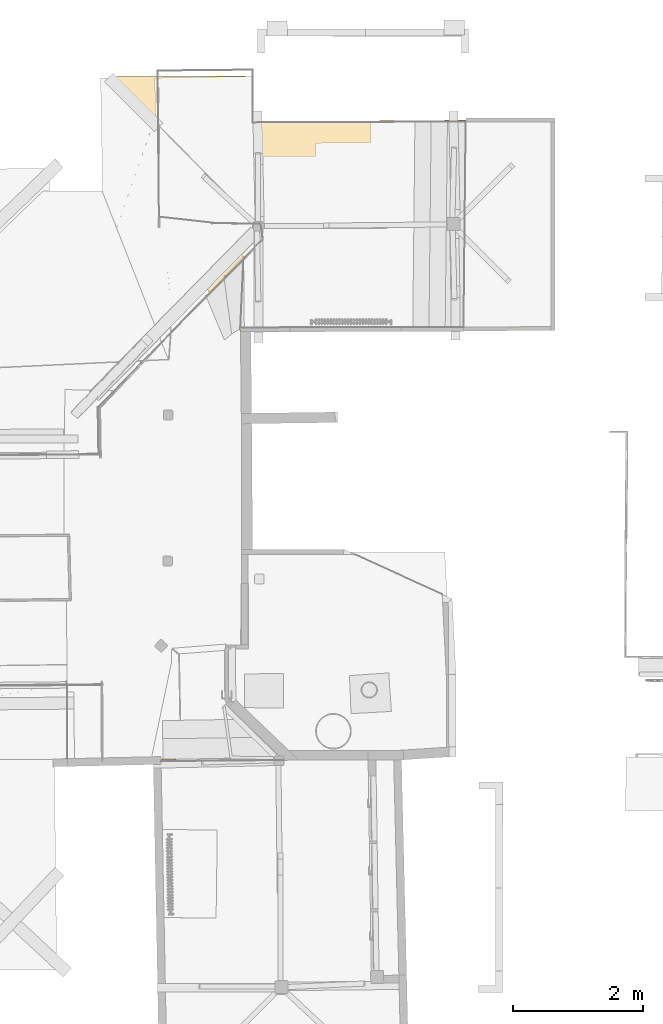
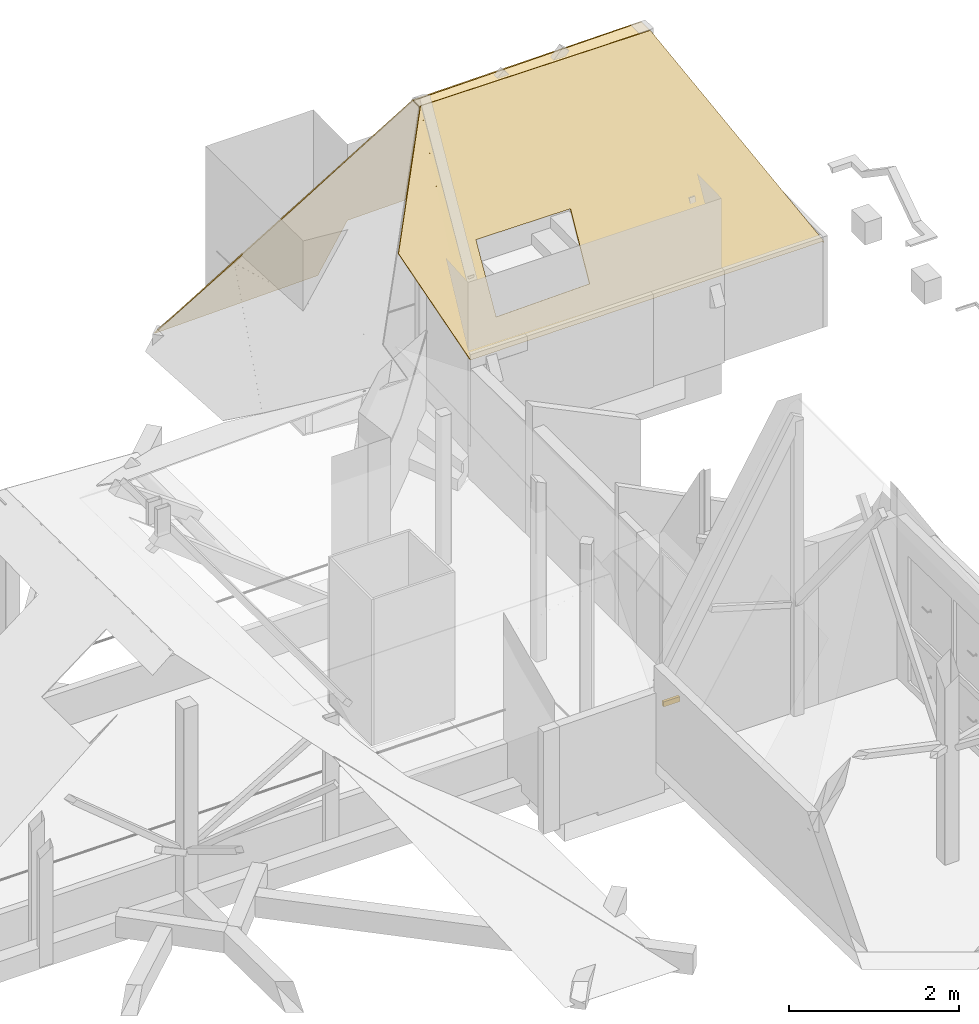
# One storey, part 29 of 39: 1 covering, 1 railing.
"""IFC2X3 building model written with IfcOpenShell, lengths in centimetres."""

import ifcopenshell
import ifcopenshell.guid

model = None  # the IFC model being written
_history = None  # IfcOwnerHistory: only IFC2X3 demands one
_inside = {}  # id of a spatial element -> (the spatial element, [elements in it])
_under = {}  # id of a project, library or spatial element -> (it, [spatial elements below it])
_declared = {}  # id of a project -> (the project, [libraries it declares])
_typed = {}  # id of a type object -> (the type object, [elements of that type])
_made_of = {}  # id of a material, layer set ... -> (it, [elements and type objects made of it])


def new_model(schema):
    """Start an empty IFC model of exactly this schema.

    Asked for "IFC4X3", IfcOpenShell would pick the latest addendum, in which some entities
    have other attributes; the version numbers below select the first issue.
    IFC2X3 requires an IfcOwnerHistory on every rooted entity: one is made here for all.
    """
    global model, _history
    if schema == "IFC4X3":
        model = ifcopenshell.file(schema_version=(4, 3, 0, 0))
    else:
        model = ifcopenshell.file(schema=schema)
    _inside.clear()
    _under.clear()
    _declared.clear()
    _typed.clear()
    _made_of.clear()
    _history = None
    if model.schema == "IFC2X3":
        org = make("IfcOrganization", Name="unknown")
        user = make(
            "IfcPersonAndOrganization",
            ThePerson=make("IfcPerson", FamilyName="unknown"),
            TheOrganization=org,
        )
        app = make(
            "IfcApplication",
            ApplicationDeveloper=org,
            Version="unknown",
            ApplicationFullName="unknown",
            ApplicationIdentifier="unknown",
        )
        _history = make(
            "IfcOwnerHistory",
            OwningUser=user,
            OwningApplication=app,
            ChangeAction="ADDED",
            CreationDate=0,
        )
    return model


def make(cls, **values):
    """One entity of the class cls with the attributes given. An attribute that is None is left unset."""
    return model.create_entity(
        cls, **{name: value for name, value in values.items() if value is not None}
    )


def entity(cls, *values):
    """Any entity or typed value of the class cls, its attributes in the order of the schema. None: left unset."""
    e = model.create_entity(cls)
    for i, value in enumerate(values):
        if value is not None:
            e[i] = value
    return e


def rooted(cls, **values):
    """An entity with a GlobalId (a new one), such as an element, a storey or a relation."""
    return make(cls, GlobalId=ifcopenshell.guid.new(), OwnerHistory=_history, **values)


def si_unit(unit_type, name, prefix=None):
    """IfcSIUnit, for example si_unit("LENGTHUNIT", "METRE", prefix="MILLI")."""
    return make("IfcSIUnit", UnitType=unit_type, Prefix=prefix, Name=name)


def converted_unit(unit_type, name, factor, base, dimensions=None, offset=None):
    """IfcConversionBasedUnit, such as the inch: factor (a typed value) times the base unit."""
    return make(
        "IfcConversionBasedUnit"
        if offset is None
        else "IfcConversionBasedUnitWithOffset",
        ConversionOffset=offset,
        Dimensions=None
        if dimensions is None
        else entity("IfcDimensionalExponents", *dimensions),
        UnitType=unit_type,
        Name=name,
        ConversionFactor=make(
            "IfcMeasureWithUnit", ValueComponent=factor, UnitComponent=base
        ),
    )


def assignment(units):
    """IfcUnitAssignment: the units of a project."""
    return None if units is None else make("IfcUnitAssignment", Units=units)


def point(xyz):
    """IfcCartesianPoint."""
    return None if xyz is None else make("IfcCartesianPoint", Coordinates=xyz)


def direction(xyz):
    """IfcDirection."""
    return None if xyz is None else make("IfcDirection", DirectionRatios=xyz)


def frame(location, z_axis=None, x_axis=None):
    """IfcAxis2Placement3D, a coordinate frame: its origin and axes. An axis left out is left unset."""
    return make(
        "IfcAxis2Placement3D",
        Location=point(location),
        Axis=direction(z_axis),
        RefDirection=direction(x_axis),
    )


def origin():
    """The frame at (0, 0, 0) with its axes left unset."""
    return frame((0.0, 0.0, 0.0))


def origin_with_axes():
    """The frame at (0, 0, 0) with the z axis (0, 0, 1) and the x axis (1, 0, 0) written out."""
    return frame((0.0, 0.0, 0.0), z_axis=(0.0, 0.0, 1.0), x_axis=(1.0, 0.0, 0.0))


def place(relative_to, where):
    """IfcLocalPlacement: puts the frame where relative to a parent placement (None: the world)."""
    return make(
        "IfcLocalPlacement", PlacementRelTo=relative_to, RelativePlacement=where
    )


def context(
    kind, dimensions, precision=None, world=None, true_north=None, identifier=None
):
    """IfcGeometricRepresentationContext, for example the 3D "Model" context."""
    return make(
        "IfcGeometricRepresentationContext",
        ContextIdentifier=identifier,
        ContextType=kind,
        CoordinateSpaceDimension=dimensions,
        Precision=precision,
        WorldCoordinateSystem=world,
        TrueNorth=true_north,
    )


def subcontext(parent, identifier, kind, view, scale=None):
    """IfcGeometricRepresentationSubContext, for example "Body" below "Model"."""
    return make(
        "IfcGeometricRepresentationSubContext",
        ContextIdentifier=identifier,
        ContextType=kind,
        ParentContext=parent,
        TargetScale=scale,
        TargetView=view,
    )


def project(units=None, contexts=None):
    """IfcProject with its units and contexts."""
    return rooted(
        "IfcProject",
        Name="project",
        RepresentationContexts=contexts,
        UnitsInContext=assignment(units),
    )


def spatial(cls, under=None, at=None, **own):
    """A site, building, storey or space (cls), placed at a placement, below another one or the project."""
    s = rooted(cls, ObjectPlacement=at, **own)
    if under is not None:
        _under.setdefault(under.id(), (under, []))[1].append(s)
    return s


def faces_of(points, faces, orient=None, outer=None):
    """IfcFace entities. A face is a list of loops; a loop is a list of indices into points, from 0.

    orient and outer hold one flag for each loop. By default every Orientation is true, the
    first loop of a face is its IfcFaceOuterBound and the others are IfcFaceBound.
    """
    made = []
    for i, loops in enumerate(faces):
        bounds = []
        for j, loop in enumerate(loops):
            is_outer = j == 0 if outer is None else outer[i][j]
            bounds.append(
                make(
                    "IfcFaceOuterBound" if is_outer else "IfcFaceBound",
                    Bound=make("IfcPolyLoop", Polygon=[points[k] for k in loop]),
                    Orientation=True if orient is None else orient[i][j],
                )
            )
        made.append(make("IfcFace", Bounds=bounds))
    return made


def faceted_brep(points, faces, orient=None, outer=None, voids=None):
    """IfcFacetedBrep: a solid bounded by flat faces; with voids (closed shells), ...WithVoids."""
    shared = [point(p) for p in points]
    hull = make("IfcClosedShell", CfsFaces=faces_of(shared, faces, orient, outer))
    if voids is None:
        return make("IfcFacetedBrep", Outer=hull)
    return make(
        "IfcFacetedBrepWithVoids",
        Outer=hull,
        Voids=[
            make(cls, CfsFaces=faces_of(shared, fs, o, b)) for cls, fs, o, b in voids
        ],
    )


def shape(context_of_items, identifier, shape_type, items):
    """IfcShapeRepresentation: the items that make up one representation, for example the "Body"."""
    return make(
        "IfcShapeRepresentation",
        ContextOfItems=context_of_items,
        RepresentationIdentifier=identifier,
        RepresentationType=shape_type,
        Items=items,
    )


def source(mapping_origin, context_of_items, identifier, shape_type, items):
    """IfcRepresentationMap: a shape defined once, which mapped items show again and again."""
    return make(
        "IfcRepresentationMap",
        MappingOrigin=mapping_origin,
        MappedRepresentation=shape(context_of_items, identifier, shape_type, items),
    )


def transform(
    local_origin,
    x_axis=None,
    y_axis=None,
    z_axis=None,
    scale=None,
    scale2=None,
    scale3=None,
    uniform=True,
):
    """IfcCartesianTransformationOperator3D, or its non-uniform kind. x_axis, y_axis, z_axis: its Axis1, 2, 3."""
    if uniform:
        return make(
            "IfcCartesianTransformationOperator3D",
            Axis1=direction(x_axis),
            Axis2=direction(y_axis),
            LocalOrigin=point(local_origin),
            Scale=scale,
            Axis3=direction(z_axis),
        )
    return make(
        "IfcCartesianTransformationOperator3DnonUniform",
        Axis1=direction(x_axis),
        Axis2=direction(y_axis),
        LocalOrigin=point(local_origin),
        Scale=scale,
        Axis3=direction(z_axis),
        Scale2=scale2,
        Scale3=scale3,
    )


def mapped(mapping_source, mapping_target):
    """IfcMappedItem: shows the shape of a source again, moved by a transform."""
    return make(
        "IfcMappedItem", MappingSource=mapping_source, MappingTarget=mapping_target
    )


def material(Name=None, Category=None):
    """IfcMaterial."""
    return make("IfcMaterial", Name=Name, Category=Category)


def made_of(thing, what):
    """Note that an element or type object is made of a material, layer set ...; save() writes the relation."""
    if what is not None:
        _made_of.setdefault(what.id(), (what, []))[1].append(thing)
    return thing


def type_object(cls, material=None, **own):
    """A type object (cls), such as IfcWallType, which elements share."""
    return made_of(rooted(cls, **own), material)


def element(
    cls,
    number,
    at=None,
    inside=None,
    cuts=None,
    type_object=None,
    material=None,
    context=None,
    identifier="Body",
    shape_type=None,
    held_by="IfcProductDefinitionShape",
    body=None,
    shapes=None,
    **own,
):
    """One element of the class cls, such as IfcWall. Its Tag is "e" and its number.

    at: its placement. inside: the storey or other place that contains it. cuts: it is an
    opening in that element (IfcRelVoidsElement). A single representation is given by context,
    identifier, shape_type and body (its items); several are given by shapes. held_by: the class
    of the entity that holds the representations. save() writes the other relations.
    """
    e = rooted(cls, Tag="e%d" % number, ObjectPlacement=at, **own)
    if body is not None:
        shapes = [shape(context, identifier, shape_type, body)]
    if shapes is not None:
        e.Representation = make(held_by, Representations=shapes)
    if inside is not None:
        _inside.setdefault(inside.id(), (inside, []))[1].append(e)
    if cuts is not None:
        rooted(
            "IfcRelVoidsElement", RelatingBuildingElement=cuts, RelatedOpeningElement=e
        )
    if type_object is not None:
        _typed.setdefault(type_object.id(), (type_object, []))[1].append(e)
    return made_of(e, material)


def aggregate(whole, parts):
    """IfcRelAggregates: a whole, such as a stair, and the parts it consists of."""
    return rooted("IfcRelAggregates", RelatingObject=whole, RelatedObjects=parts)


def save(model, path):
    """Write the relations noted so far, then the file.

    IfcRelAggregates (storeys below a building ...), IfcRelContainedInSpatialStructure (elements
    in a storey), IfcRelDefinesByType, IfcRelAssociatesMaterial and IfcRelDeclares: one each for
    every whole, place, type object, material and project.
    """
    for whole, parts in _under.values():
        aggregate(whole, parts)
    for where, things in _inside.values():
        rooted(
            "IfcRelContainedInSpatialStructure",
            RelatedElements=things,
            RelatingStructure=where,
        )
    for kind, things in _typed.values():
        rooted("IfcRelDefinesByType", RelatedObjects=things, RelatingType=kind)
    for what, things in _made_of.values():
        rooted("IfcRelAssociatesMaterial", RelatedObjects=things, RelatingMaterial=what)
    for by, libraries in _declared.values():
        rooted("IfcRelDeclares", RelatingContext=by, RelatedDefinitions=libraries)
    model.write(path)


model = new_model("IFC2X3")

# Units and contexts
model_context = context("Model", 3, precision=0.0001, world=origin(), true_north=direction((0.225632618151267, 0.974212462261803, 0.0)))
body_context = subcontext(model_context, "Body", "Model", "MODEL_VIEW")
ifc_project = project(units=[si_unit("LENGTHUNIT", "METRE", prefix="CENTI"), si_unit("AREAUNIT", "SQUARE_METRE", prefix="CENTI"), si_unit("VOLUMEUNIT", "CUBIC_METRE", prefix="CENTI"), converted_unit("PLANEANGLEUNIT", "DEGREE", entity("IfcRatioMeasure", 0.0174532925), si_unit("PLANEANGLEUNIT", "RADIAN"), dimensions=[0, 0, 0, 0, 0, 0, 0])], contexts=[model_context])

# Site, building, storey
site_placement = place(None, origin_with_axes())
site = spatial("IfcSite", under=ifc_project, at=site_placement, Name="Default Site", CompositionType="ELEMENT")
building_placement = place(site_placement, origin_with_axes())
building = spatial("IfcBuilding", under=site, at=building_placement, Name="Default Building", CompositionType="ELEMENT")
storey_placement = place(building_placement, frame((0.0, 0.0, 1088.91037418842), z_axis=(0.0, 0.0, 1.0), x_axis=(1.0, 0.0, 0.0)))
storey = spatial("IfcBuildingStorey", under=building, at=storey_placement, Name="Mezzanine", CompositionType="ELEMENT", Elevation=1088.91037418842)

# Railing
ifc_material_1 = material(Name="Jaune 255-255-0")
railing_type = type_object("IfcRailingType", Name="Barreaux en bois avec poteaux pointus", PredefinedType="NOTDEFINED", material=ifc_material_1)
shared_shape_1 = source(origin_with_axes(), body_context, "Body", "Brep", [
    faceted_brep([(384.380006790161, -355.139994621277, 1208.41035842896), (384.380006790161, -351.139998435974, 1208.41035842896), (406.529998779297, -351.139998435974, 1208.41035842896), (406.529998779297, -355.139994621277, 1208.41035842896), (384.380006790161, -351.139998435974, 1215.41032791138), (406.529998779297, -351.139998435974, 1215.41032791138), (384.380006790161, -355.139994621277, 1215.41032791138), (406.529998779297, -355.139994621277, 1215.41032791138)], [[[0, 1, 2, 3]], [[1, 4, 5, 2]], [[4, 6, 7, 5]], [[6, 0, 3, 7]], [[3, 2, 5, 7]], [[6, 4, 1, 0]]]),
])
shared_shape_2 = source(origin_with_axes(), body_context, "Body", "Brep", [
    faceted_brep([(384.380006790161, -355.139994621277, 1158.41035842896), (384.380006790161, -351.139998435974, 1158.41035842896), (406.529998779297, -351.139998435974, 1158.41035842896), (406.529998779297, -355.139994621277, 1158.41035842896), (384.380006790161, -351.139998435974, 1165.41032791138), (406.529998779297, -351.139998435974, 1165.41032791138), (384.380006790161, -355.139994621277, 1165.41032791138), (406.529998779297, -355.139994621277, 1165.41032791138)], [[[0, 1, 2, 3]], [[1, 4, 5, 2]], [[4, 6, 7, 5]], [[6, 0, 3, 7]], [[3, 2, 5, 7]], [[6, 4, 1, 0]]]),
])
shared_shape_3 = source(origin_with_axes(), body_context, "Body", "Brep", [
    faceted_brep([(4.50000017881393, 4.50000017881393, 0.0), (-4.50000017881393, 4.50000017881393, 114.999997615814), (4.50000017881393, 4.50000017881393, 114.999997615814), (-4.50000017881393, 4.50000017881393, 0.0), (-4.50000017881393, -4.50000017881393, 0.0), (-4.50000017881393, -4.50000017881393, 114.999997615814), (4.50000017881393, -4.50000017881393, 114.999997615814), (4.50000017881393, -4.50000017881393, 0.0)], [[[0, 1, 2]], [[1, 0, 3]], [[4, 1, 3]], [[1, 4, 5]], [[4, 6, 5]], [[6, 4, 7]], [[6, 0, 2]], [[0, 6, 7]], [[6, 1, 5]], [[1, 6, 2]], [[0, 4, 3]], [[4, 0, 7]]]),
])
shared_shape_4 = source(origin_with_axes(), body_context, "Body", "Brep", [
    faceted_brep([(4.50000017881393, -1.49999996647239, -1.10214578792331e-15), (-4.50000017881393, 1.49999996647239, 1.10214573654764e-15), (4.50000017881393, 1.49999996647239, -1.10214578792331e-15), (-4.50000017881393, 1.49999996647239, 1.10214578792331e-15), (4.50000017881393, -1.49999996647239, -1.10214573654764e-15), (-4.50000017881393, -1.49999996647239, 1.10214578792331e-15), (-4.50000017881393, -1.49999996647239, 95.4999983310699), (-4.50000017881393, 1.49999996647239, 95.4999983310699), (-3.31075617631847e-13, -1.49999996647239, 100.0), (-4.50000016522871, 1.49999996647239, 95.4999983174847), (-4.50000016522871, -1.49999996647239, 95.4999983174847), (-1.35855507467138e-08, -1.49999996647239, 100.000000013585), (-1.35855507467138e-08, 1.49999996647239, 100.000000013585), (-3.31075617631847e-13, 1.49999996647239, 100.0), (4.50000016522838, -1.49999996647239, 95.4999983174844), (4.50000016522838, 1.49999996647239, 95.4999983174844), (4.50000017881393, -1.49999996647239, 95.4999983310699), (1.35852183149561e-08, 1.49999996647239, 100.000000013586), (1.35852183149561e-08, -1.49999996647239, 100.000000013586), (4.50000017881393, 1.49999996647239, 95.4999983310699)], [[[0, 1, 2]], [[3, 4, 5]], [[6, 3, 5]], [[3, 6, 7]], [[8, 9, 10]], [[7, 11, 12]], [[13, 14, 15]], [[16, 17, 18]], [[19, 0, 2]], [[0, 19, 16]], [[13, 3, 7]], [[3, 13, 2]], [[2, 13, 19]], [[0, 6, 5]], [[6, 0, 8]], [[8, 0, 16]]]),
])
railing_placement = place(storey_placement, frame((406.53, -352.64, 58.0), z_axis=(0.0, 0.0, 1.0), x_axis=(1.0, 0.0, 0.0)))
element("IfcRailing", 1, at=railing_placement, inside=storey, type_object=railing_type, material=ifc_material_1, Name="Garde-corps 198413", PredefinedType="NOTDEFINED", shapes=[
    shape(body_context, "Body", "MappedRepresentation", [mapped(shared_shape_1, transform((-406.53, 352.64, -1146.91037418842), x_axis=(1.0, 0.0, 0.0), y_axis=(0.0, 1.0, 0.0), z_axis=(0.0, 0.0, 1.0), scale=1.0, scale2=1.0, scale3=1.0, uniform=False))]),
    shape(body_context, "Body", "MappedRepresentation", [mapped(shared_shape_2, transform((-406.53, 352.64, -1146.91037418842), x_axis=(1.0, 0.0, 0.0), y_axis=(0.0, 1.0, 0.0), z_axis=(0.0, 0.0, 1.0), scale=1.0, scale2=1.0, scale3=1.0, uniform=False))]),
    shape(body_context, "Body", "MappedRepresentation", [mapped(shared_shape_3, transform((-1.22070318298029e-06, -8.92639153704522e-06, -19.9999737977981), x_axis=(-1.0, 0.0, 0.0), y_axis=(0.0, -1.0, 0.0), z_axis=(0.0, 0.0, 1.0), scale=1.0, scale2=1.0, scale3=1.0, uniform=False))]),
    shape(body_context, "Body", "MappedRepresentation", [mapped(shared_shape_3, transform((-22.1499932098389, -8.92639153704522e-06, -19.9999737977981), x_axis=(-1.0, 0.0, 0.0), y_axis=(0.0, -1.0, 0.0), z_axis=(0.0, 0.0, 1.0), scale=1.0, scale2=1.0, scale3=1.0, uniform=False))]),
    shape(body_context, "Body", "MappedRepresentation", [mapped(shared_shape_4, transform((-11.0749972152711, 2.99998821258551, -10.0000310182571), x_axis=(-1.0, 0.0, 0.0), y_axis=(0.0, -1.0, 0.0), z_axis=(0.0, 0.0, 1.0), scale=1.0, scale2=1.0, scale3=1.0, uniform=False))]),
])

# Covering
ifc_material_2 = material(Name="Blanc")
covering_placement = place(storey_placement, frame((524.210025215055, 628.93475675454, 279.702416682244), z_axis=(0.0, 0.0, 1.0), x_axis=(1.0, 0.0, 0.0)))
element("IfcCovering", 2, at=covering_placement, inside=storey, material=ifc_material_2, Name="Faux-plafond 193151", PredefinedType="CEILING", context=body_context, shape_type="Brep", body=[
    faceted_brep([(313.47050533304, -165.89616918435, 153.876280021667), (463.168151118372, -316.518775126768, -110.286855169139), (462.877722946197, 3.53093939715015, -105.023491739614), (313.491561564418, -146.548882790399, 154.126894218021), (312.276123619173, -146.538583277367, 153.432249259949), (461.662308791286, 3.54128720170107, -105.718177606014), (461.952713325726, -316.508451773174, -110.981500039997), (312.255067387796, -165.885869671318, 153.181635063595), (312.255047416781, -165.885869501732, 153.181623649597), (461.952728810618, -316.508467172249, -110.981482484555), (463.168186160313, -316.518792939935, -110.286825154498), (313.47049993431, -165.896190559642, 153.876289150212), (461.95273265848, -316.50845193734, -110.981488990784), (461.662333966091, 3.54128680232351, -105.718151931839), (462.877715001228, 3.53093998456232, -105.023527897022), (463.168185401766, -316.518775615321, -110.286823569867), (461.662338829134, 3.54128694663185, -105.718160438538), (312.276124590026, -146.538587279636, 153.432247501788), (313.491585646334, -146.548899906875, 154.126898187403), (462.877699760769, 3.53094624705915, -105.02350113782), (312.255025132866, -165.885869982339, 153.181662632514), (313.47047775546, -165.896169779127, 153.876328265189), (313.491576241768, -146.548883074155, 154.126914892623)], [[[0, 1, 2, 3]], [[4, 5, 6, 7]], [[8, 9, 10, 11]], [[12, 13, 14, 15]], [[16, 17, 18, 19]], [[4, 20, 21, 22]]]),
    faceted_brep([(-18.7962545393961, -321.133414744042, -107.913137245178), (461.961315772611, -317.721055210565, -107.913133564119), (313.624237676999, -167.289302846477, 154.635980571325), (1.53736917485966, -168.515506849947, 156.350001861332), (27.3506150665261, -254.098208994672, 7.70279849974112), (155.629776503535, -253.670817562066, 6.86547112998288), (155.027149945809, -299.507896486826, -72.5707159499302), (27.508114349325, -301.376561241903, -74.2407159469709), (1.52878627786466, -167.302886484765, 155.650304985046), (313.615654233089, -166.076653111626, 153.936334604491), (461.952732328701, -316.508405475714, -108.612779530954), (-18.8048379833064, -319.920765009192, -108.612783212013), (27.4995313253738, -300.163946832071, -74.9404231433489), (155.018518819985, -298.295247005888, -73.2703617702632), (155.621193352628, -252.458209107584, 6.16575361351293), (27.3419842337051, -252.885600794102, 7.00308112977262), (-18.8048376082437, -319.920817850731, -108.612752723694), (461.952732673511, -316.508454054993, -108.612756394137), (461.961315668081, -317.721040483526, -107.913122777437), (-18.7962546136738, -321.133404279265, -107.913119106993), (461.95273265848, -316.50845193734, -108.612752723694), (313.615646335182, -166.076701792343, 153.936358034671), (313.62425683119, -167.289291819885, 154.635985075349), (461.961343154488, -317.721041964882, -107.913125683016), (313.615654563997, -166.076699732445, 153.936361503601), (1.52878636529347, -167.302870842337, 155.650332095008), (1.53736932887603, -168.515534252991, 156.350010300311), (313.624237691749, -167.289286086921, 154.635995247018), (-18.8048391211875, -319.920817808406, -108.612752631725), (-18.7962338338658, -321.133415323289, -107.91313850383), (1.53739600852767, -168.515531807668, 156.350014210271), (27.5081144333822, -301.376573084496, -74.2407091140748), (155.027148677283, -299.507842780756, -72.5706791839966), (155.018518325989, -298.295256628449, -73.2703132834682), (27.4995304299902, -300.163927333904, -74.9403765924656), (155.027149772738, -299.507872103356, -72.5707300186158), (155.629787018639, -253.670827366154, 6.86547670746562), (155.62117953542, -252.458230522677, 6.16576607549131), (155.018543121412, -298.295275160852, -73.2703457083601), (155.629776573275, -253.670827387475, 6.86547679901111), (27.3506151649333, -254.098210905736, 7.70281260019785), (27.3419846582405, -252.885583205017, 7.0031551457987), (155.621193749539, -252.45819978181, 6.16581917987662), (27.3506151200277, -254.098216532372, 7.70280284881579), (27.5081317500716, -301.376572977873, -74.2407091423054), (27.4995246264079, -300.163952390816, -74.9404199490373), (27.3420081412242, -252.88561949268, 7.00309196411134)], [[[0, 1, 2, 3], [4, 5, 6, 7]], [[8, 9, 10, 11], [12, 13, 14, 15]], [[16, 17, 18, 19]], [[20, 21, 22, 23]], [[24, 25, 26, 27]], [[8, 28, 29, 30]], [[31, 32, 33, 34]], [[35, 36, 37, 38]], [[39, 40, 41, 42]], [[43, 44, 45, 46]]]),
    faceted_brep([(1.18493900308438, -152.323237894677, 154.235624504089), (1.25360355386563, -167.310801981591, 154.235624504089), (313.617275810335, -165.87962293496, 154.235624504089), (313.781784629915, -146.510545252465, 154.235624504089), (313.781784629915, -146.510545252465, 152.835630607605), (313.617275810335, -165.87962293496, 152.835630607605), (1.25360355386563, -167.310801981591, 152.835630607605), (1.18493900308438, -152.323237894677, 152.835630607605), (1.25360860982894, -167.310801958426, 152.835630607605), (1.25360860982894, -167.310801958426, 154.235624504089), (313.617275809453, -165.879622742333, 152.835630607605), (313.617275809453, -165.879622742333, 154.235624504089), (313.781750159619, -146.510544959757, 152.835630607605), (313.781750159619, -146.510544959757, 154.235624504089), (1.18493854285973, -152.323213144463, 152.835630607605), (1.18493854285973, -152.323213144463, 154.235624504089)], [[[0, 1, 2, 3]], [[4, 5, 6, 7]], [[7, 8, 9, 0]], [[6, 10, 11, 1]], [[5, 12, 13, 2]], [[4, 14, 15, 3]]]),
    faceted_brep([(1.59597263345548, -168.522588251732, 156.278108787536), (-75.3118055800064, -250.192745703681, 21.3827797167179), (-18.7367474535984, -321.133828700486, -107.869862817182), (-18.8048376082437, -319.920817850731, -108.5654504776), (-75.3798957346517, -248.979734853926, 20.6871920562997), (1.52787916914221, -167.309542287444, 155.582582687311), (1.52788028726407, -167.309562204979, 155.582594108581), (-75.3799201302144, -248.979698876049, 20.6871841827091), (-75.3118186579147, -250.192750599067, 21.3827901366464), (1.59595117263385, -168.522583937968, 156.27811841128), (-75.3798974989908, -248.979703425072, 20.6871740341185), (-18.8048712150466, -319.920825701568, -108.565460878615), (-18.7367778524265, -321.133875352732, -107.869850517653), (-75.3118041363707, -250.192753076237, 21.3827843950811), (1.52790832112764, -167.30956195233, 155.582591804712), (1.59599904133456, -168.522588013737, 156.278106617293), (-18.7367388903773, -321.133867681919, -107.869840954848)], [[[0, 1, 2]], [[3, 4, 5]], [[6, 7, 8, 9]], [[10, 11, 12, 13]], [[3, 14, 15, 16]]]),
    faceted_brep([(1.42879352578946, -151.106111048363, 155.285143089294), (313.761375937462, -145.298326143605, 154.339291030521), (461.64183457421, 4.7535176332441, -101.177994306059), (-0.0241768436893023, 1.20744712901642, -108.504706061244), (0.396632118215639, 71.5467352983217, -230.292546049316), (-221.236921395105, 70.6138515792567, -235.142361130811), (-221.216489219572, 69.4016060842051, -235.842443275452), (0.417040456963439, 70.3344895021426, -230.992628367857), (-0.00376790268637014, -0.00478673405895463, -109.204809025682), (461.662339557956, 3.54124368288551, -101.878025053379), (313.781785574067, -146.510601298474, 153.639259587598), (1.44920246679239, -152.318344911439, 154.585040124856), (1.44920215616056, -152.318326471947, 154.58505077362), (313.781784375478, -146.510534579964, 153.639273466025), (313.761376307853, -145.298342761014, 154.339311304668), (1.42879310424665, -151.106093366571, 155.285112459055), (313.781784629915, -146.510545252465, 153.63929195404), (461.662323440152, 3.54129059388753, -101.878006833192), (461.641905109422, 4.75348571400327, -101.17797222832), (313.761385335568, -145.298332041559, 154.339293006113), (461.662338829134, 3.54128694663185, -101.878000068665), (-0.00376849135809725, -0.00476747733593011, -109.204781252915), (-0.0241767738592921, 1.20746552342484, -108.504719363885), (461.641834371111, 4.75347911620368, -101.177962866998), (-0.00376834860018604, -0.00476026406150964, -109.204793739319), (0.417026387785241, 70.3344901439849, -230.992628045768), (0.396604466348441, 71.5467531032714, -230.292535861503), (-0.0241897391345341, 1.20745501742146, -108.504701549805), (0.417040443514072, 70.3344903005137, -230.992627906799), (-221.216489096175, 69.4016097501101, -235.842449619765), (-221.236921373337, 70.6138786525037, -235.142367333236), (0.396632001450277, 71.5467590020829, -230.292545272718), (1.44923105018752, -152.318318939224, 154.585038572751), (1.42882628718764, -151.10610250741, 155.285129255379), (-221.236908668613, 70.6138725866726, -235.142356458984)], [[[0, 1, 2, 3, 4, 5]], [[6, 7, 8, 9, 10, 11]], [[12, 13, 14, 15]], [[16, 17, 18, 19]], [[20, 21, 22, 23]], [[24, 25, 26, 27]], [[28, 29, 30, 31]], [[6, 32, 33, 34]]]),
])

save(model, "model.ifc")
